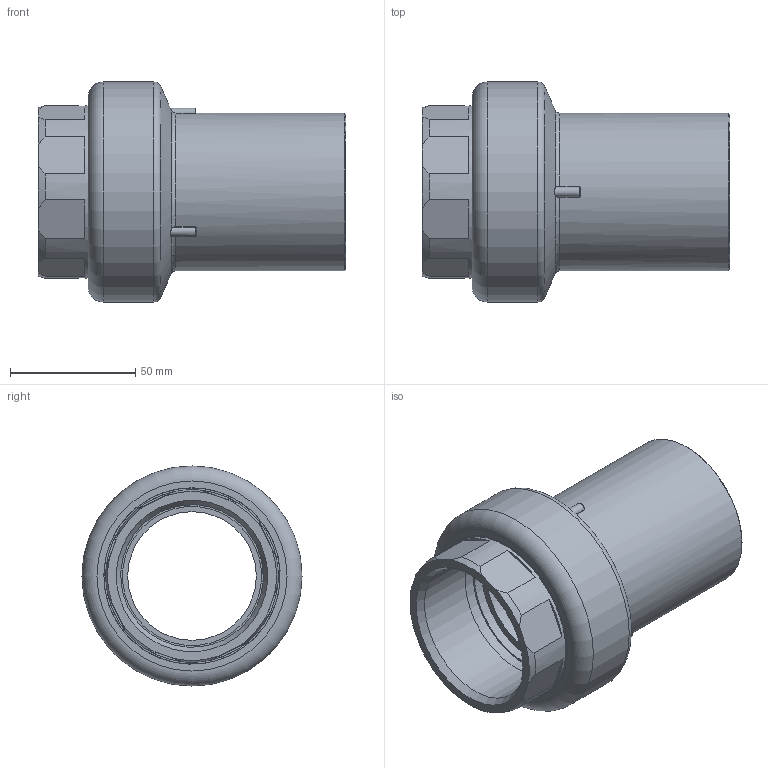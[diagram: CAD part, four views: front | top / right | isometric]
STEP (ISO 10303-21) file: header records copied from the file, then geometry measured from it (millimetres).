
FILE_DESCRIPTION(/* description */ ('Unknown'),/* implementation_level */ '2;1');
FILE_NAME(/* name */ 'RTOFP063C',/* time_stamp */ '2021-03-01T16:31:34+01:00',/* author */ ('Unknown'),/* organization */ ('Unknown'),/* preprocessor_version */ 'ST-DEVELOPER v16.7',/* originating_system */ 'Solid Edge',/* authorisation */ 'Unknown');
FILE_SCHEMA (('AUTOMOTIVE_DESIGN {1 0 10303 214 3 1 1}'));
Length unit declared in the file: millimetre
Products named in the file (3): RTOFP063C; Parte PE 063; IOF063C
Assembly tree (2 placements, depth 2):
  RTOFP063C
    Parte PE 063
    IOF063C
Bounding box: 123 x 88 x 88 mm (x, y, z)
Volume: 211364.3 mm3; surface area: 78636.5 mm2
Topology: 2 solids, 2 shells, 318 faces, 853 edges, 556 vertices
Faces by surface type: bspline 111, plane 88, cone 65, cylinder 32, torus 22
Full cylindrical faces by diameter (mm): 51.4 x1, 55.6 x3, 57 x2, 60 x2, 60.2 x2, 63 x1, 67 x2, 69 x3, 74 x6, 88 x1
Entity records: 12817 total; most frequent: CARTESIAN_POINT 5155, ORIENTED_EDGE 1588, DIRECTION 960, EDGE_CURVE 794, VERTEX_POINT 542, B_SPLINE_CURVE_WITH_KNOTS 478, AXIS2_PLACEMENT_3D 434, EDGE_LOOP 384
